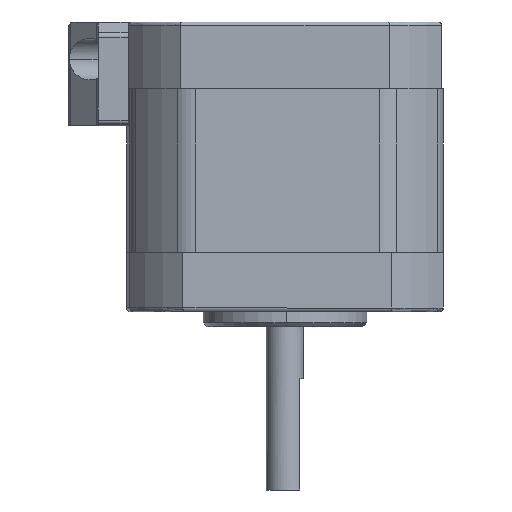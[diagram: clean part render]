
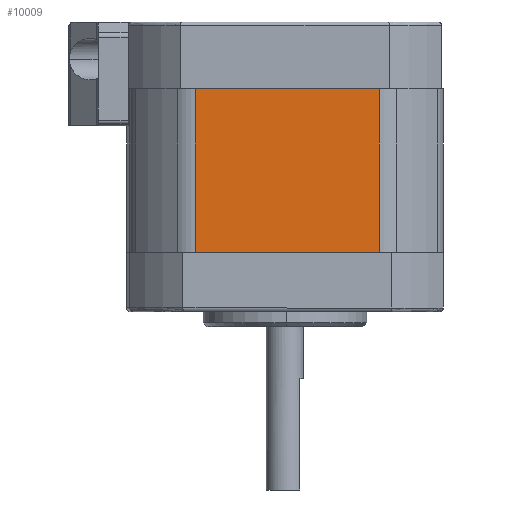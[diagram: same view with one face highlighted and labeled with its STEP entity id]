
A CAD part, left-side view. The second image highlights one B-rep face of the part: STEP entity #10009.
In plain terms, the highlighted planar face has unit normal (-1, -0.015, 0) as drawn and (-1, 0, 0) by its records, which use the part's own axes.
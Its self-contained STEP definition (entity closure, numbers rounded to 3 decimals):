
#986 = VECTOR ( 'NONE', #12494, 1000. ) ;
#1116 = VERTEX_POINT ( 'NONE', #19711 ) ;
#2902 = DIRECTION ( 'NONE',  ( 0., 0., -1. ) ) ;
#2964 = DIRECTION ( 'NONE',  ( 0., -1., 0. ) ) ;
#3126 = LINE ( 'NONE', #6746, #986 ) ;
#3357 = LINE ( 'NONE', #6867, #18232 ) ;
#3522 = ORIENTED_EDGE ( 'NONE', *, *, #7587, .F. ) ;
#4417 = CARTESIAN_POINT ( 'NONE',  ( -21.14, -12.352, 0. ) ) ;
#5165 = ORIENTED_EDGE ( 'NONE', *, *, #6756, .F. ) ;
#5863 = DIRECTION ( 'NONE',  ( 0., 0., -1. ) ) ;
#6355 = ORIENTED_EDGE ( 'NONE', *, *, #10605, .T. ) ;
#6746 = CARTESIAN_POINT ( 'NONE',  ( -21.14, 0., 0. ) ) ;
#6756 = EDGE_CURVE ( 'NONE', #14042, #14492, #21104, .T. ) ;
#6867 = CARTESIAN_POINT ( 'NONE',  ( -21.14, 12.404, 22. ) ) ;
#6900 = AXIS2_PLACEMENT_3D ( 'NONE', #16848, #22450, #5863 ) ;
#7587 = EDGE_CURVE ( 'NONE', #22015, #14042, #21135, .T. ) ;
#8368 = EDGE_CURVE ( 'NONE', #1116, #14492, #3126, .T. ) ;
#10009 = ADVANCED_FACE ( 'NONE', ( #17086 ), #13425, .F. ) ;
#10605 = EDGE_CURVE ( 'NONE', #22015, #1116, #3357, .T. ) ;
#11857 = CARTESIAN_POINT ( 'NONE',  ( -21.14, 0., 22. ) ) ;
#12405 = ORIENTED_EDGE ( 'NONE', *, *, #8368, .T. ) ;
#12494 = DIRECTION ( 'NONE',  ( 0., -1., 0. ) ) ;
#13425 = PLANE ( 'NONE',  #6900 ) ;
#14042 = VERTEX_POINT ( 'NONE', #20680 ) ;
#14492 = VERTEX_POINT ( 'NONE', #4417 ) ;
#14617 = VECTOR ( 'NONE', #2902, 1000. ) ;
#15034 = CARTESIAN_POINT ( 'NONE',  ( -21.14, 12.404, 22. ) ) ;
#15928 = CARTESIAN_POINT ( 'NONE',  ( -21.14, -12.352, 22. ) ) ;
#16273 = DIRECTION ( 'NONE',  ( 0., 0., -1. ) ) ;
#16848 = CARTESIAN_POINT ( 'NONE',  ( -21.14, 0., 22. ) ) ;
#17086 = FACE_OUTER_BOUND ( 'NONE', #22159, .T. ) ;
#18232 = VECTOR ( 'NONE', #16273, 1000. ) ;
#19711 = CARTESIAN_POINT ( 'NONE',  ( -21.14, 12.404, 0. ) ) ;
#20680 = CARTESIAN_POINT ( 'NONE',  ( -21.14, -12.352, 22. ) ) ;
#21104 = LINE ( 'NONE', #15928, #14617 ) ;
#21135 = LINE ( 'NONE', #11857, #21676 ) ;
#21676 = VECTOR ( 'NONE', #2964, 1000. ) ;
#22015 = VERTEX_POINT ( 'NONE', #15034 ) ;
#22159 = EDGE_LOOP ( 'NONE', ( #12405, #5165, #3522, #6355 ) ) ;
#22450 = DIRECTION ( 'NONE',  ( 1., 0., 0. ) ) ;
